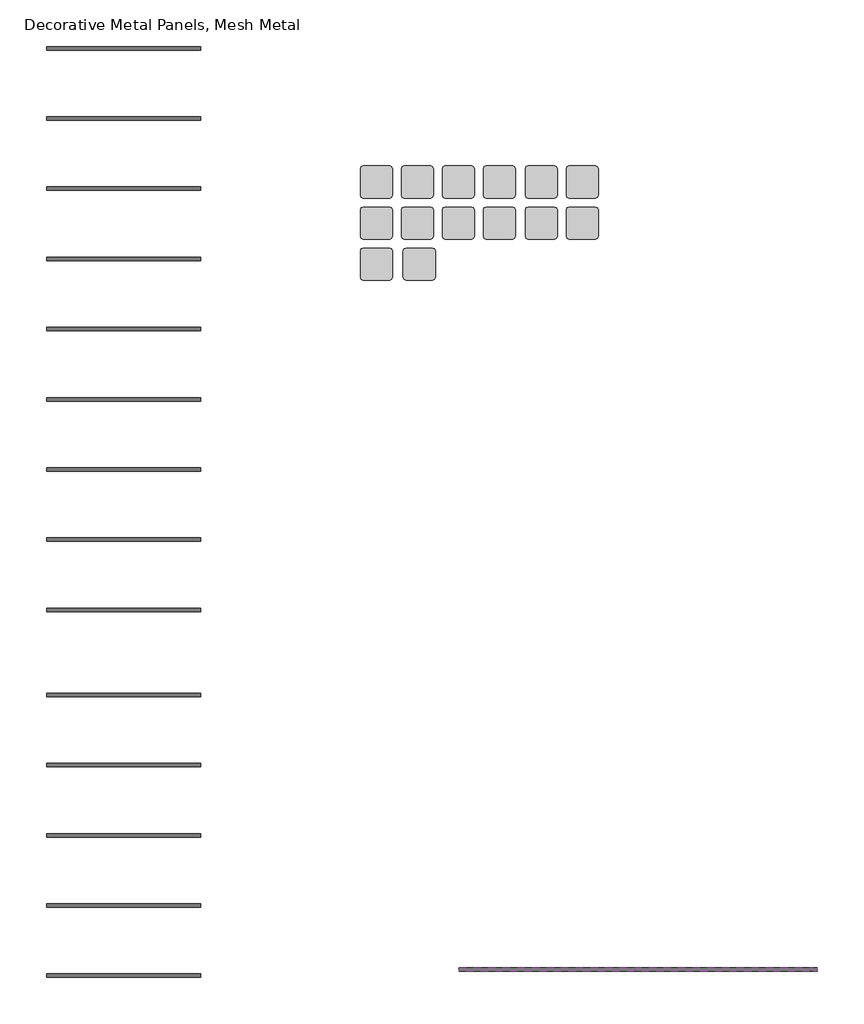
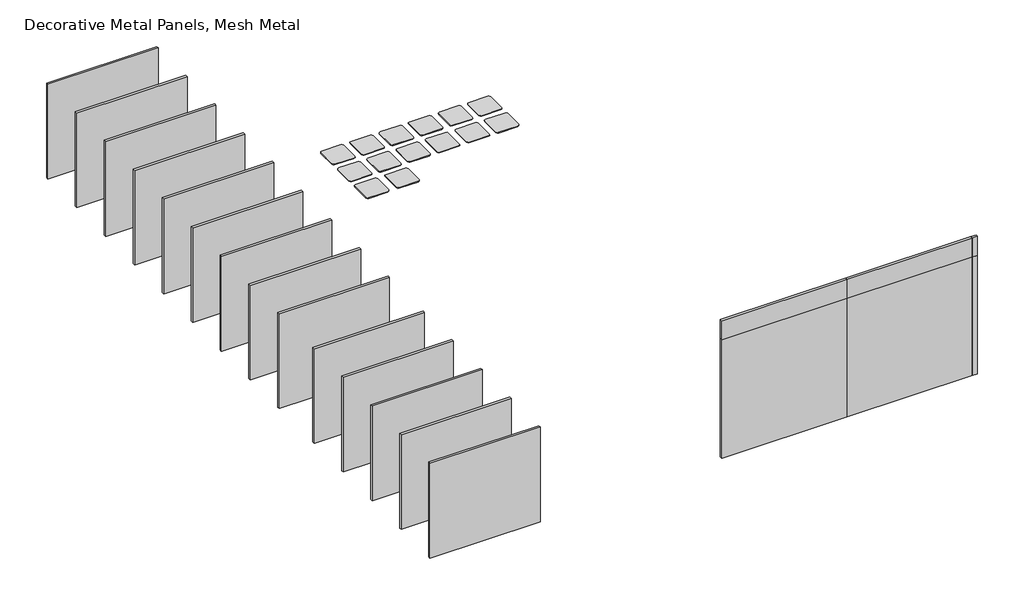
# One storey: 20 plates, 14 proxies.
"""IFC4 building model written with IfcOpenShell, lengths in millimetres."""

from ifc_helpers import new_model, si_unit, origin, place, context, project, spatial, transform, mapped, element, save
from components import materialsample_type_1_cfafc0c5, plate_9b3d0739, plate_a09a0795, plate_6da359c8, plate_4c34311c, plate_1d212017

model = new_model("IFC4")

# Units and contexts
model_context = context("Model", 3, world=origin())
ifc_project = project(units=[si_unit("LENGTHUNIT", "METRE", prefix="MILLI")], contexts=[model_context])

# Site, building, storey
site = spatial("IfcSite", under=ifc_project)
building = spatial("IfcBuilding", under=site)
storey = spatial("IfcBuildingStorey", under=building, Name="Decorative Metal Panels, Mesh Metal", Elevation=0.0)

# Proxies
placement = place(None, origin())
materialsample_type_1_shape = materialsample_type_1_cfafc0c5(model_context)
element("IfcBuildingElementProxy", 1, Name="MaterialSample : Type 1", ObjectType="MaterialSample : Type 1", at=placement, inside=storey, context=model_context, shape_type="MappedRepresentation", body=[
    mapped(materialsample_type_1_shape, transform((17628.3557224, 10294.7159606, 0.0), x_axis=(1.0, 0.0, 0.0), y_axis=(0.0, 1.0, 0.0), z_axis=(0.0, 0.0, 1.0))),
])
element("IfcBuildingElementProxy", 2, Name="MaterialSample : Type 1", ObjectType="MaterialSample : Type 1", at=placement, inside=storey, context=model_context, shape_type="MappedRepresentation", body=[
    mapped(materialsample_type_1_shape, transform((18796.7557224, 10294.7159606, 0.0), x_axis=(1.0, 0.0, 0.0), y_axis=(0.0, 1.0, 0.0), z_axis=(0.0, 0.0, 1.0))),
])
element("IfcBuildingElementProxy", 3, Name="MaterialSample : Type 1", ObjectType="MaterialSample : Type 1", at=placement, inside=storey, context=model_context, shape_type="MappedRepresentation", body=[
    mapped(materialsample_type_1_shape, transform((19965.1557224, 10294.7159606, 0.0), x_axis=(1.0, 0.0, 0.0), y_axis=(0.0, 1.0, 0.0), z_axis=(0.0, 0.0, 1.0))),
])
element("IfcBuildingElementProxy", 4, Name="MaterialSample : Type 1", ObjectType="MaterialSample : Type 1", at=placement, inside=storey, context=model_context, shape_type="MappedRepresentation", body=[
    mapped(materialsample_type_1_shape, transform((21133.5557224, 10294.7159606, 0.0), x_axis=(1.0, 0.0, 0.0), y_axis=(0.0, 1.0, 0.0), z_axis=(0.0, 0.0, 1.0))),
])
element("IfcBuildingElementProxy", 5, Name="MaterialSample : Type 1", ObjectType="MaterialSample : Type 1", at=placement, inside=storey, context=model_context, shape_type="MappedRepresentation", body=[
    mapped(materialsample_type_1_shape, transform((23495.7557224, 10294.7159606, 0.0), x_axis=(1.0, 0.0, 0.0), y_axis=(0.0, 1.0, 0.0), z_axis=(0.0, 0.0, 1.0))),
])
element("IfcBuildingElementProxy", 6, Name="MaterialSample : Type 1", ObjectType="MaterialSample : Type 1", at=placement, inside=storey, context=model_context, shape_type="MappedRepresentation", body=[
    mapped(materialsample_type_1_shape, transform((22327.3557224, 10294.7159606, 0.0), x_axis=(1.0, 0.0, 0.0), y_axis=(0.0, 1.0, 0.0), z_axis=(0.0, 0.0, 1.0))),
])
element("IfcBuildingElementProxy", 7, Name="MaterialSample : Type 1", ObjectType="MaterialSample : Type 1", at=placement, inside=storey, context=model_context, shape_type="MappedRepresentation", body=[
    mapped(materialsample_type_1_shape, transform((17628.3557224, 9126.3159606, 0.0), x_axis=(1.0, 0.0, 0.0), y_axis=(0.0, 1.0, 0.0), z_axis=(0.0, 0.0, 1.0))),
])
element("IfcBuildingElementProxy", 8, Name="MaterialSample : Type 1", ObjectType="MaterialSample : Type 1", at=placement, inside=storey, context=model_context, shape_type="MappedRepresentation", body=[
    mapped(materialsample_type_1_shape, transform((18796.7557224, 9126.3159606, 0.0), x_axis=(1.0, 0.0, 0.0), y_axis=(0.0, 1.0, 0.0), z_axis=(0.0, 0.0, 1.0))),
])
element("IfcBuildingElementProxy", 9, Name="MaterialSample : Type 1", ObjectType="MaterialSample : Type 1", at=placement, inside=storey, context=model_context, shape_type="MappedRepresentation", body=[
    mapped(materialsample_type_1_shape, transform((19965.1557224, 9126.3159606, 0.0), x_axis=(1.0, 0.0, 0.0), y_axis=(0.0, 1.0, 0.0), z_axis=(0.0, 0.0, 1.0))),
])
element("IfcBuildingElementProxy", 10, Name="MaterialSample : Type 1", ObjectType="MaterialSample : Type 1", at=placement, inside=storey, context=model_context, shape_type="MappedRepresentation", body=[
    mapped(materialsample_type_1_shape, transform((21133.5557224, 9126.3159606, 0.0), x_axis=(1.0, 0.0, 0.0), y_axis=(0.0, 1.0, 0.0), z_axis=(0.0, 0.0, 1.0))),
])
element("IfcBuildingElementProxy", 11, Name="MaterialSample : Type 1", ObjectType="MaterialSample : Type 1", at=placement, inside=storey, context=model_context, shape_type="MappedRepresentation", body=[
    mapped(materialsample_type_1_shape, transform((22327.3557224, 9126.3159606, 0.0), x_axis=(1.0, 0.0, 0.0), y_axis=(0.0, 1.0, 0.0), z_axis=(0.0, 0.0, 1.0))),
])
element("IfcBuildingElementProxy", 12, Name="MaterialSample : Type 1", ObjectType="MaterialSample : Type 1", at=placement, inside=storey, context=model_context, shape_type="MappedRepresentation", body=[
    mapped(materialsample_type_1_shape, transform((23495.7557224, 9126.3159606, 0.0), x_axis=(1.0, 0.0, 0.0), y_axis=(0.0, 1.0, 0.0), z_axis=(0.0, 0.0, 1.0))),
])
element("IfcBuildingElementProxy", 13, Name="MaterialSample : Type 1", ObjectType="MaterialSample : Type 1", at=placement, inside=storey, context=model_context, shape_type="MappedRepresentation", body=[
    mapped(materialsample_type_1_shape, transform((17628.3557224, 7957.9159606, 0.0), x_axis=(1.0, 0.0, 0.0), y_axis=(0.0, 1.0, 0.0), z_axis=(0.0, 0.0, 1.0))),
])
element("IfcBuildingElementProxy", 14, Name="MaterialSample : Type 1", ObjectType="MaterialSample : Type 1", at=placement, inside=storey, context=model_context, shape_type="MappedRepresentation", body=[
    mapped(materialsample_type_1_shape, transform((18847.5557224, 7957.9159606, 0.0), x_axis=(1.0, 0.0, 0.0), y_axis=(0.0, 1.0, 0.0), z_axis=(0.0, 0.0, 1.0))),
])

# Plates
plate_shape = plate_9b3d0739(model_context)
element("IfcPlate", 15, ObjectType="System Panel : Bilbao", at=placement, inside=storey, context=model_context, shape_type="MappedRepresentation", body=[
    mapped(plate_shape, transform((10880.1983066, 6561.9725263, 0.0), x_axis=(1.0, 0.0, 0.0), y_axis=(0.0, 1.0, 0.0), z_axis=(0.0, 0.0, 1.0))),
])
element("IfcPlate", 16, ObjectType="System Panel : Pisa", at=placement, inside=storey, context=model_context, shape_type="MappedRepresentation", body=[
    mapped(plate_shape, transform((10880.1983066, 2561.9725263, 0.0), x_axis=(1.0, 0.0, 0.0), y_axis=(0.0, 1.0, 0.0), z_axis=(0.0, 0.0, 1.0))),
])
element("IfcPlate", 17, ObjectType="System Panel : Sunshade", at=placement, inside=storey, context=model_context, shape_type="MappedRepresentation", body=[
    mapped(plate_shape, transform((10880.1983066, 561.9725263, 0.0), x_axis=(1.0, 0.0, 0.0), y_axis=(0.0, 1.0, 0.0), z_axis=(0.0, 0.0, 1.0))),
])
element("IfcPlate", 18, ObjectType="System Panel : Venetian", at=placement, inside=storey, context=model_context, shape_type="MappedRepresentation", body=[
    mapped(plate_shape, transform((10880.1983066, -1438.0274737, 0.0), x_axis=(1.0, 0.0, 0.0), y_axis=(0.0, 1.0, 0.0), z_axis=(0.0, 0.0, 1.0))),
])
element("IfcPlate", 19, ObjectType="System Panel : 3/4\" Diameter Circular Hole, 1\" Staggered Center", at=placement, inside=storey, context=model_context, shape_type="MappedRepresentation", body=[
    mapped(plate_shape, transform((10880.1983066, -3859.6274737, 0.0), x_axis=(1.0, 0.0, 0.0), y_axis=(0.0, 1.0, 0.0), z_axis=(0.0, 0.0, 1.0))),
])
element("IfcPlate", 20, ObjectType="System Panel : 3019 - 1/4\" Diameter Circular Hole, 3/8\" Staggered Center", at=placement, inside=storey, context=model_context, shape_type="MappedRepresentation", body=[
    mapped(plate_shape, transform((10880.1983066, -7859.6274737, 0.0), x_axis=(1.0, 0.0, 0.0), y_axis=(0.0, 1.0, 0.0), z_axis=(0.0, 0.0, 1.0))),
])
element("IfcPlate", 21, ObjectType="System Panel : 3196A - 1/2\" Diameter Circular Hole, 11/16\" Staggered Center", at=placement, inside=storey, context=model_context, shape_type="MappedRepresentation", body=[
    mapped(plate_shape, transform((10880.1983066, -9859.6274737, 0.0), x_axis=(1.0, 0.0, 0.0), y_axis=(0.0, 1.0, 0.0), z_axis=(0.0, 0.0, 1.0))),
])
element("IfcPlate", 22, ObjectType="System Panel : 3690 - 3/16\" Diameter Circular Hole, 5/16\" Staggered Center", at=placement, inside=storey, context=model_context, shape_type="MappedRepresentation", body=[
    mapped(plate_shape, transform((10880.1983066, -11859.6274737, 0.0), x_axis=(1.0, 0.0, 0.0), y_axis=(0.0, 1.0, 0.0), z_axis=(0.0, 0.0, 1.0))),
])
plate_2_shape = plate_a09a0795(model_context)
element("IfcPlate", 23, ObjectType="System Panel : 3690 - 3/16\" Diameter Circular Hole, 5/16\" Staggered Center", at=placement, inside=storey, context=model_context, shape_type="MappedRepresentation", body=[
    mapped(plate_2_shape, transform((22934.2528225, -11688.4274737, 0.0), x_axis=(1.0, 0.0, 0.0), y_axis=(0.0, 1.0, 0.0), z_axis=(0.0, 0.0, 1.0))),
])
element("IfcPlate", 24, ObjectType="System Panel : 3690 - 3/16\" Diameter Circular Hole, 5/16\" Staggered Center", at=placement, inside=storey, context=model_context, shape_type="MappedRepresentation", body=[
    mapped(plate_2_shape, transform((27934.2528226, -11688.4274737, 0.0), x_axis=(1.0, 0.0, 0.0), y_axis=(0.0, 1.0, 0.0), z_axis=(0.0, 0.0, 1.0))),
])
plate_3_shape = plate_6da359c8(model_context)
element("IfcPlate", 25, ObjectType="System Panel : 3690 - 3/16\" Diameter Circular Hole, 5/16\" Staggered Center", at=placement, inside=storey, context=model_context, shape_type="MappedRepresentation", body=[
    mapped(plate_3_shape, transform((30539.6528225, -11688.4274737, 0.0), x_axis=(1.0, 0.0, 0.0), y_axis=(0.0, 1.0, 0.0), z_axis=(0.0, 0.0, 1.0))),
])
plate_4_shape = plate_4c34311c(model_context)
element("IfcPlate", 26, ObjectType="System Panel : 3690 - 3/16\" Diameter Circular Hole, 5/16\" Staggered Center", at=placement, inside=storey, context=model_context, shape_type="MappedRepresentation", body=[
    mapped(plate_4_shape, transform((22934.2528225, -11688.4274737, 5000.0), x_axis=(1.0, 0.0, 0.0), y_axis=(0.0, 1.0, 0.0), z_axis=(0.0, 0.0, 1.0))),
])
element("IfcPlate", 27, ObjectType="System Panel : 3690 - 3/16\" Diameter Circular Hole, 5/16\" Staggered Center", at=placement, inside=storey, context=model_context, shape_type="MappedRepresentation", body=[
    mapped(plate_4_shape, transform((27934.2528226, -11688.4274737, 5000.0), x_axis=(1.0, 0.0, 0.0), y_axis=(0.0, 1.0, 0.0), z_axis=(0.0, 0.0, 1.0))),
])
plate_5_shape = plate_1d212017(model_context)
element("IfcPlate", 28, ObjectType="System Panel : 3690 - 3/16\" Diameter Circular Hole, 5/16\" Staggered Center", at=placement, inside=storey, context=model_context, shape_type="MappedRepresentation", body=[
    mapped(plate_5_shape, transform((30539.6528225, -11688.4274737, 5000.0), x_axis=(1.0, 0.0, 0.0), y_axis=(0.0, 1.0, 0.0), z_axis=(0.0, 0.0, 1.0))),
])
element("IfcPlate", 29, ObjectType="System Panel : 9/16\" Diameter Circular Hole, 11/16\" Staggered Center", at=placement, inside=storey, context=model_context, shape_type="MappedRepresentation", body=[
    mapped(plate_shape, transform((10880.1983066, -5859.6274737, 0.0), x_axis=(1.0, 0.0, 0.0), y_axis=(0.0, 1.0, 0.0), z_axis=(0.0, 0.0, 1.0))),
])
element("IfcPlate", 30, ObjectType="System Panel : Apex01 - 10x4", at=placement, inside=storey, context=model_context, shape_type="MappedRepresentation", body=[
    mapped(plate_shape, transform((10880.1983066, 14561.9725263, 0.0), x_axis=(1.0, 0.0, 0.0), y_axis=(0.0, 1.0, 0.0), z_axis=(0.0, 0.0, 1.0))),
])
element("IfcPlate", 31, ObjectType="System Panel : Apex01 - 10x5", at=placement, inside=storey, context=model_context, shape_type="MappedRepresentation", body=[
    mapped(plate_shape, transform((10880.1983066, 12561.9725263, 0.0), x_axis=(1.0, 0.0, 0.0), y_axis=(0.0, 1.0, 0.0), z_axis=(0.0, 0.0, 1.0))),
])
element("IfcPlate", 32, ObjectType="System Panel : Apex03", at=placement, inside=storey, context=model_context, shape_type="MappedRepresentation", body=[
    mapped(plate_shape, transform((10880.1983066, 10561.9725263, 0.0), x_axis=(1.0, 0.0, 0.0), y_axis=(0.0, 1.0, 0.0), z_axis=(0.0, 0.0, 1.0))),
])
element("IfcPlate", 33, ObjectType="System Panel : Apex04", at=placement, inside=storey, context=model_context, shape_type="MappedRepresentation", body=[
    mapped(plate_shape, transform((10880.1983066, 8561.9725263, 0.0), x_axis=(1.0, 0.0, 0.0), y_axis=(0.0, 1.0, 0.0), z_axis=(0.0, 0.0, 1.0))),
])
element("IfcPlate", 34, ObjectType="System Panel : Crescent", at=placement, inside=storey, context=model_context, shape_type="MappedRepresentation", body=[
    mapped(plate_shape, transform((10880.1983066, 4561.9725263, 0.0), x_axis=(1.0, 0.0, 0.0), y_axis=(0.0, 1.0, 0.0), z_axis=(0.0, 0.0, 1.0))),
])

save(model, "model.ifc")
